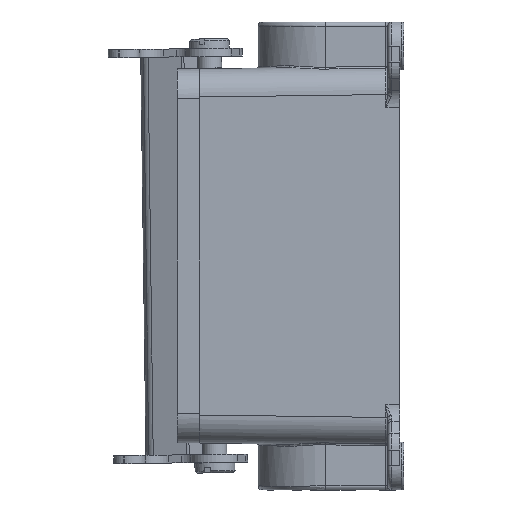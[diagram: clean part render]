
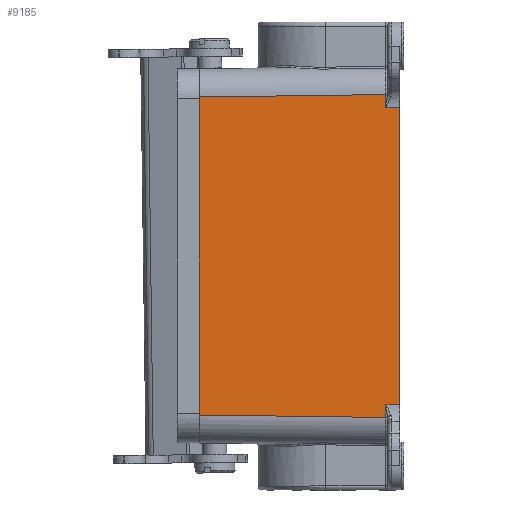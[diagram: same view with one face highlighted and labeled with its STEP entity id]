
A CAD part, left-side view. The second image highlights one B-rep face of the part: STEP entity #9185.
In plain terms, the highlighted planar face has unit normal (-1, 0.013, 0).
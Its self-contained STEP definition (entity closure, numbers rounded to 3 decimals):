
#26 = EDGE_CURVE ( 'NONE', #7655, #1070, #8993, .T. ) ;
#98 = VECTOR ( 'NONE', #10303, 1000. ) ;
#335 = CARTESIAN_POINT ( 'NONE',  ( -22.155, 0., 37.183 ) ) ;
#378 = VECTOR ( 'NONE', #3124, 1000. ) ;
#686 = VERTEX_POINT ( 'NONE', #9433 ) ;
#919 = LINE ( 'NONE', #6144, #13048 ) ;
#1070 = VERTEX_POINT ( 'NONE', #14914 ) ;
#1426 = ORIENTED_EDGE ( 'NONE', *, *, #2538, .T. ) ;
#1535 = B_SPLINE_CURVE_WITH_KNOTS ( 'NONE', 3,
 ( #17098, #2874, #7626, #14108 ),
 .UNSPECIFIED., .F., .F.,
 ( 4, 4 ),
 ( 0., 1. ),
 .UNSPECIFIED. ) ;
#1623 = CARTESIAN_POINT ( 'NONE',  ( -21.5, 50., 39.751 ) ) ;
#2538 = EDGE_CURVE ( 'NONE', #7877, #4130, #4170, .T. ) ;
#2800 = EDGE_CURVE ( 'NONE', #686, #18756, #5905, .T. ) ;
#2874 = CARTESIAN_POINT ( 'NONE',  ( -21.5, 50., 39.26 ) ) ;
#2937 = CARTESIAN_POINT ( 'NONE',  ( -22.109, 3.493, 40.359 ) ) ;
#3124 = DIRECTION ( 'NONE',  ( 0., 0., -1. ) ) ;
#3597 = ORIENTED_EDGE ( 'NONE', *, *, #5903, .T. ) ;
#3718 = CARTESIAN_POINT ( 'NONE',  ( -21.5, 50., -39.25 ) ) ;
#4011 = DIRECTION ( 'NONE',  ( 0.013, 1., -0.013 ) ) ;
#4130 = VERTEX_POINT ( 'NONE', #13300 ) ;
#4170 = LINE ( 'NONE', #15350, #5686 ) ;
#4517 = CARTESIAN_POINT ( 'NONE',  ( -21.5, 50., -39.25 ) ) ;
#4778 = VECTOR ( 'NONE', #6532, 1000. ) ;
#5018 = EDGE_LOOP ( 'NONE', ( #8363, #13004, #8891, #6920, #8329, #1426, #6730, #9990, #3597, #18267, #10544, #18198 ) ) ;
#5371 = CARTESIAN_POINT ( 'NONE',  ( -21.5, 50., -39.264 ) ) ;
#5686 = VECTOR ( 'NONE', #17212, 1000. ) ;
#5903 = EDGE_CURVE ( 'NONE', #18756, #16915, #8583, .T. ) ;
#5905 = LINE ( 'NONE', #19221, #6661 ) ;
#5928 = DIRECTION ( 'NONE',  ( -0.013, -1., 0. ) ) ;
#6144 = CARTESIAN_POINT ( 'NONE',  ( -22.109, 3.493, -49.123 ) ) ;
#6206 = DIRECTION ( 'NONE',  ( 0., 0., 1. ) ) ;
#6343 = CARTESIAN_POINT ( 'NONE',  ( -22.155, 0., -37.183 ) ) ;
#6532 = DIRECTION ( 'NONE',  ( 0., 0., -1. ) ) ;
#6661 = VECTOR ( 'NONE', #16230, 1000. ) ;
#6730 = ORIENTED_EDGE ( 'NONE', *, *, #14375, .T. ) ;
#6767 = B_SPLINE_CURVE_WITH_KNOTS ( 'NONE', 3,
 ( #7849, #15869, #18803, #10884 ),
 .UNSPECIFIED., .F., .F.,
 ( 4, 4 ),
 ( 0., 1. ),
 .UNSPECIFIED. ) ;
#6920 = ORIENTED_EDGE ( 'NONE', *, *, #11836, .T. ) ;
#7146 = CARTESIAN_POINT ( 'NONE',  ( -22.109, 3.493, -49.123 ) ) ;
#7410 = AXIS2_PLACEMENT_3D ( 'NONE', #15987, #16919, #5928 ) ;
#7496 = VERTEX_POINT ( 'NONE', #15546 ) ;
#7554 = LINE ( 'NONE', #7146, #98 ) ;
#7626 = CARTESIAN_POINT ( 'NONE',  ( -21.5, 49.999, 39.255 ) ) ;
#7655 = VERTEX_POINT ( 'NONE', #1623 ) ;
#7834 = VERTEX_POINT ( 'NONE', #5371 ) ;
#7849 = CARTESIAN_POINT ( 'NONE',  ( -21.5, 50., -39.25 ) ) ;
#7877 = VERTEX_POINT ( 'NONE', #12472 ) ;
#8202 = VERTEX_POINT ( 'NONE', #11983 ) ;
#8329 = ORIENTED_EDGE ( 'NONE', *, *, #16325, .T. ) ;
#8363 = ORIENTED_EDGE ( 'NONE', *, *, #26, .T. ) ;
#8583 = LINE ( 'NONE', #18169, #12277 ) ;
#8633 = EDGE_CURVE ( 'NONE', #16915, #18160, #14181, .T. ) ;
#8808 = LINE ( 'NONE', #15655, #378 ) ;
#8891 = ORIENTED_EDGE ( 'NONE', *, *, #17765, .F. ) ;
#8993 = LINE ( 'NONE', #16144, #4778 ) ;
#9185 = ADVANCED_FACE ( 'NONE', ( #19156 ), #17114, .T. ) ;
#9318 = LINE ( 'NONE', #2937, #19778 ) ;
#9433 = CARTESIAN_POINT ( 'NONE',  ( -22.109, 3.493, -37.138 ) ) ;
#9973 = VECTOR ( 'NONE', #4011, 1000. ) ;
#9990 = ORIENTED_EDGE ( 'NONE', *, *, #2800, .T. ) ;
#10111 = DIRECTION ( 'NONE',  ( 0., 0., 1. ) ) ;
#10303 = DIRECTION ( 'NONE',  ( 0., 0., 1. ) ) ;
#10544 = ORIENTED_EDGE ( 'NONE', *, *, #17148, .T. ) ;
#10596 = VERTEX_POINT ( 'NONE', #3718 ) ;
#10619 = CARTESIAN_POINT ( 'NONE',  ( -21.5, 49.999, -13.083 ) ) ;
#10884 = CARTESIAN_POINT ( 'NONE',  ( -21.5, 50., -39.264 ) ) ;
#11836 = EDGE_CURVE ( 'NONE', #10596, #7834, #6767, .T. ) ;
#11983 = CARTESIAN_POINT ( 'NONE',  ( -21.5, 50., 39.25 ) ) ;
#12112 = CARTESIAN_POINT ( 'NONE',  ( -22.109, 3.493, 37.138 ) ) ;
#12277 = VECTOR ( 'NONE', #10111, 1000. ) ;
#12337 = CARTESIAN_POINT ( 'NONE',  ( -21.5, 49.999, 13.084 ) ) ;
#12472 = CARTESIAN_POINT ( 'NONE',  ( -21.5, 50., -39.751 ) ) ;
#13004 = ORIENTED_EDGE ( 'NONE', *, *, #19886, .T. ) ;
#13048 = VECTOR ( 'NONE', #6206, 1000. ) ;
#13300 = CARTESIAN_POINT ( 'NONE',  ( -22.109, 3.493, -40.359 ) ) ;
#14108 = CARTESIAN_POINT ( 'NONE',  ( -21.5, 50., 39.25 ) ) ;
#14181 = LINE ( 'NONE', #14945, #9973 ) ;
#14245 = EDGE_CURVE ( 'NONE', #7496, #7655, #9318, .T. ) ;
#14349 = B_SPLINE_CURVE_WITH_KNOTS ( 'NONE', 3,
 ( #4517, #10619, #12337, #15331 ),
 .UNSPECIFIED., .F., .F.,
 ( 4, 4 ),
 ( 0., 1. ),
 .UNSPECIFIED. ) ;
#14375 = EDGE_CURVE ( 'NONE', #4130, #686, #919, .T. ) ;
#14914 = CARTESIAN_POINT ( 'NONE',  ( -21.5, 50., 39.264 ) ) ;
#14945 = CARTESIAN_POINT ( 'NONE',  ( -21.496, 50.294, 36.525 ) ) ;
#15331 = CARTESIAN_POINT ( 'NONE',  ( -21.5, 50., 39.25 ) ) ;
#15350 = CARTESIAN_POINT ( 'NONE',  ( -21.5, 50., -39.751 ) ) ;
#15546 = CARTESIAN_POINT ( 'NONE',  ( -22.109, 3.493, 40.359 ) ) ;
#15655 = CARTESIAN_POINT ( 'NONE',  ( -21.5, 50., -49.123 ) ) ;
#15869 = CARTESIAN_POINT ( 'NONE',  ( -21.5, 49.999, -39.255 ) ) ;
#15987 = CARTESIAN_POINT ( 'NONE',  ( -21.5, 50., -49.123 ) ) ;
#16144 = CARTESIAN_POINT ( 'NONE',  ( -21.5, 50., -49.123 ) ) ;
#16230 = DIRECTION ( 'NONE',  ( -0.013, -1., -0.013 ) ) ;
#16325 = EDGE_CURVE ( 'NONE', #7834, #7877, #8808, .T. ) ;
#16915 = VERTEX_POINT ( 'NONE', #335 ) ;
#16919 = DIRECTION ( 'NONE',  ( -1., 0.013, 0. ) ) ;
#16943 = DIRECTION ( 'NONE',  ( 0.013, 1., -0.013 ) ) ;
#17098 = CARTESIAN_POINT ( 'NONE',  ( -21.5, 50., 39.264 ) ) ;
#17114 = PLANE ( 'NONE',  #7410 ) ;
#17148 = EDGE_CURVE ( 'NONE', #18160, #7496, #7554, .T. ) ;
#17212 = DIRECTION ( 'NONE',  ( -0.013, -1., -0.013 ) ) ;
#17765 = EDGE_CURVE ( 'NONE', #10596, #8202, #14349, .T. ) ;
#18160 = VERTEX_POINT ( 'NONE', #12112 ) ;
#18169 = CARTESIAN_POINT ( 'NONE',  ( -22.155, 0., 0. ) ) ;
#18198 = ORIENTED_EDGE ( 'NONE', *, *, #14245, .T. ) ;
#18267 = ORIENTED_EDGE ( 'NONE', *, *, #8633, .T. ) ;
#18756 = VERTEX_POINT ( 'NONE', #6343 ) ;
#18803 = CARTESIAN_POINT ( 'NONE',  ( -21.5, 50., -39.26 ) ) ;
#19156 = FACE_OUTER_BOUND ( 'NONE', #5018, .T. ) ;
#19221 = CARTESIAN_POINT ( 'NONE',  ( -22.109, 3.493, -37.138 ) ) ;
#19778 = VECTOR ( 'NONE', #16943, 1000. ) ;
#19886 = EDGE_CURVE ( 'NONE', #1070, #8202, #1535, .T. ) ;
